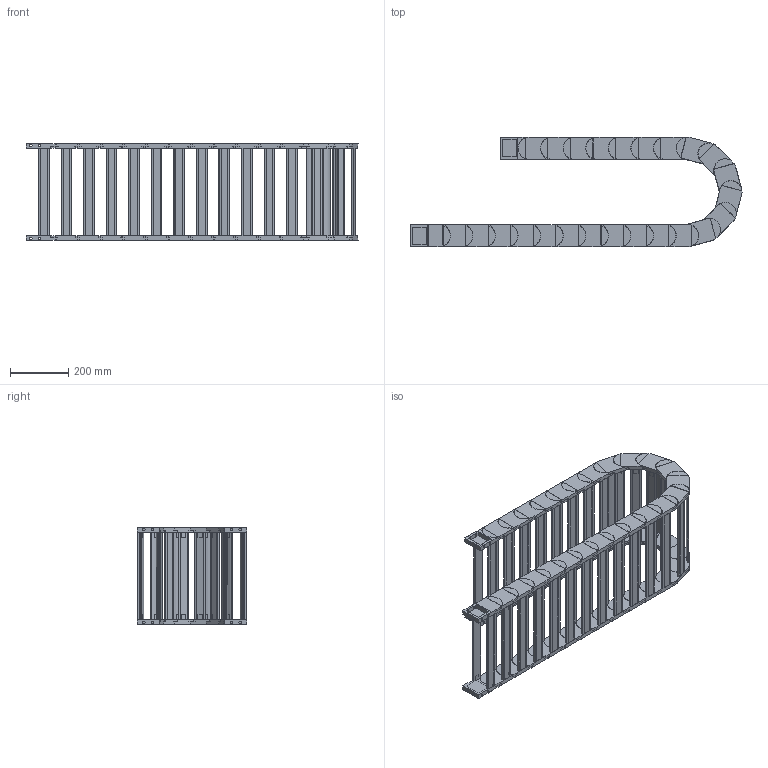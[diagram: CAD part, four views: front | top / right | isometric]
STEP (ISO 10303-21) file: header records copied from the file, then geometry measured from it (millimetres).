
FILE_DESCRIPTION((''),'2;1');
FILE_NAME('HD55-R150-ZPT_ASM','2022-06-17T19:12:50',('admin'),(''),'CREO PARAMETRIC BY PTC INC, 2021164','CREO PARAMETRIC BY PTC INC, 2021164','');
FILE_SCHEMA(('CONFIG_CONTROL_DESIGN','GEOMETRIC_VALIDATION_PROPERTIES_MIM'));
Length unit declared in the file: millimetre
Products named in the file (6): HD-55; 55-500001; HD55_ASM; H55-T1; H55-T2; HD55-R150-ZPT_ASM
Assembly tree (30 placements, depth 3):
  HD55-R150-ZPT_ASM
    HD55_ASM  x24
      HD-55
      55-500001
    H55-T1
    H55-T2
    55-500001  x2
Bounding box: 1139.56 x 376 x 332.8 mm (x, y, z)
Volume: 9236758.2 mm3; surface area: 2783432.3 mm2
Topology: 104 solids, 104 shells, 1726 faces, 4430 edges, 3020 vertices
Faces by surface type: plane 1424, cylinder 302
Entity records: 8783 total; most frequent: CARTESIAN_POINT 1296, DIRECTION 1258, ORIENTED_EDGE 1172, EDGE_CURVE 586, AXIS2_PLACEMENT_3D 420, VECTOR 418, LINE 418, VERTEX_POINT 396
